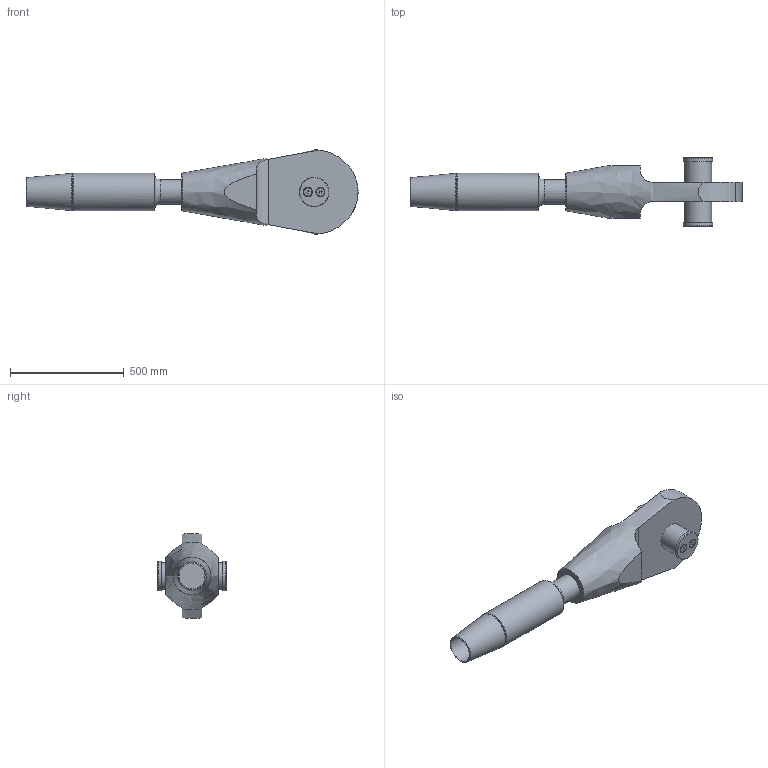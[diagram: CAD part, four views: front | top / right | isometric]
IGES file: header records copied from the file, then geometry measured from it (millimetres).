
Global section: file name: 520-110-OES-ADA; native system: Autodesk Inventor 2020; preprocessor: unknown; author: Administrator; date: 20201008.095923; units: millimetre
Bounding box: 1461.9 x 302 x 370.95 mm (x, y, z)
Volume: 40062510 mm3; surface area: 1382637 mm2
Topology: 10 solids, 10 shells, 110 faces, 282 edges, 194 vertices
Faces by surface type: bspline 110
